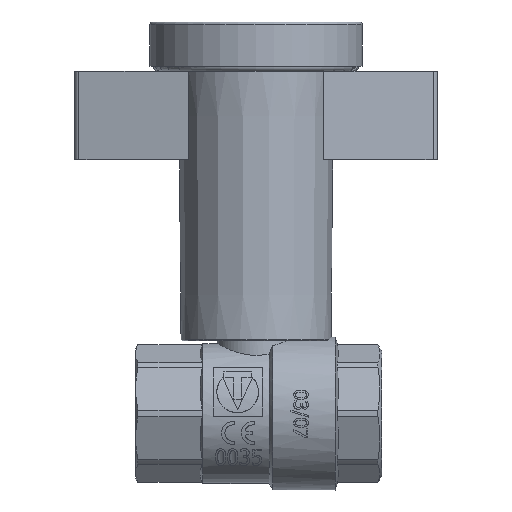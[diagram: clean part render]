
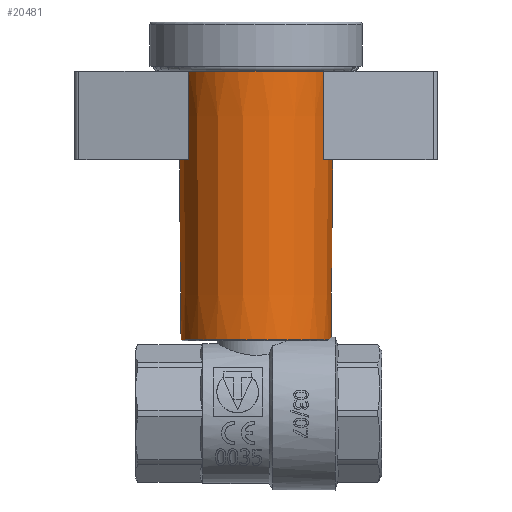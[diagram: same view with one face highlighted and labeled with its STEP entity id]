
A CAD part, top view. The second image highlights one B-rep face of the part: STEP entity #20481.
In plain terms, the highlighted conical face has half-angle 0.511 degrees and reference radius 14.7 mm.
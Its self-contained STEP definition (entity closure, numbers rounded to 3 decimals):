
#521=B_SPLINE_CURVE_WITH_KNOTS('',3,(#29678,#29679,#29680,#29681,#29682,
#29683),.UNSPECIFIED.,.F.,.F.,(4,2,4),(1.824,1.971,
2.206),.UNSPECIFIED.);
#522=B_SPLINE_CURVE_WITH_KNOTS('',3,(#29688,#29689,#29690,#29691,#29692,
#29693),.UNSPECIFIED.,.F.,.F.,(4,2,4),(2.206,2.442,
2.589),.UNSPECIFIED.);
#1168=CONICAL_SURFACE('',#21774,14.7,0.009);
#1278=LINE('',#29676,#3021);
#3021=VECTOR('',#23433,14.7);
#5724=FACE_OUTER_BOUND('',#6866,.T.);
#6866=EDGE_LOOP('',(#13936,#13937,#13938,#13939,#13940,#13941,#13942,#13943,
#13944,#13945,#13946));
#8156=CIRCLE('',#21775,14.931);
#8157=CIRCLE('',#21776,14.931);
#8158=CIRCLE('',#21777,14.931);
#8159=CIRCLE('',#21778,14.469);
#8160=CIRCLE('',#21779,14.469);
#8161=CIRCLE('',#21780,14.931);
#8162=CIRCLE('',#21781,14.931);
#8654=VERTEX_POINT('',#29668);
#8655=VERTEX_POINT('',#29669);
#8656=VERTEX_POINT('',#29671);
#8657=VERTEX_POINT('',#29673);
#8658=VERTEX_POINT('',#29675);
#8659=VERTEX_POINT('',#29677);
#8660=VERTEX_POINT('',#29684);
#8661=VERTEX_POINT('',#29686);
#8662=VERTEX_POINT('',#29694);
#10725=EDGE_CURVE('',#8654,#8655,#8156,.T.);
#10726=EDGE_CURVE('',#8656,#8654,#8157,.T.);
#10727=EDGE_CURVE('',#8657,#8656,#8158,.T.);
#10728=EDGE_CURVE('',#8657,#8658,#1278,.T.);
#10729=EDGE_CURVE('',#8659,#8658,#521,.T.);
#10730=EDGE_CURVE('',#8659,#8660,#8159,.T.);
#10731=EDGE_CURVE('',#8660,#8661,#8160,.T.);
#10732=EDGE_CURVE('',#8658,#8661,#522,.T.);
#10733=EDGE_CURVE('',#8662,#8657,#8161,.T.);
#10734=EDGE_CURVE('',#8655,#8662,#8162,.T.);
#13936=ORIENTED_EDGE('',*,*,#10725,.F.);
#13937=ORIENTED_EDGE('',*,*,#10726,.F.);
#13938=ORIENTED_EDGE('',*,*,#10727,.F.);
#13939=ORIENTED_EDGE('',*,*,#10728,.T.);
#13940=ORIENTED_EDGE('',*,*,#10729,.F.);
#13941=ORIENTED_EDGE('',*,*,#10730,.T.);
#13942=ORIENTED_EDGE('',*,*,#10731,.T.);
#13943=ORIENTED_EDGE('',*,*,#10732,.F.);
#13944=ORIENTED_EDGE('',*,*,#10728,.F.);
#13945=ORIENTED_EDGE('',*,*,#10733,.F.);
#13946=ORIENTED_EDGE('',*,*,#10734,.F.);
#20481=ADVANCED_FACE('',(#5724),#1168,.T.);
#21774=AXIS2_PLACEMENT_3D('',#29667,#23425,#23426);
#21775=AXIS2_PLACEMENT_3D('',#29670,#23427,#23428);
#21776=AXIS2_PLACEMENT_3D('',#29672,#23429,#23430);
#21777=AXIS2_PLACEMENT_3D('',#29674,#23431,#23432);
#21778=AXIS2_PLACEMENT_3D('',#29685,#23434,#23435);
#21779=AXIS2_PLACEMENT_3D('',#29687,#23436,#23437);
#21780=AXIS2_PLACEMENT_3D('',#29695,#23438,#23439);
#21781=AXIS2_PLACEMENT_3D('',#29696,#23440,#23441);
#23425=DIRECTION('center_axis',(0.,1.,0.));
#23426=DIRECTION('ref_axis',(-1.,0.,0.));
#23427=DIRECTION('center_axis',(0.,1.,0.));
#23428=DIRECTION('ref_axis',(1.,0.,0.));
#23429=DIRECTION('center_axis',(0.,1.,0.));
#23430=DIRECTION('ref_axis',(1.,0.,0.));
#23431=DIRECTION('center_axis',(0.,1.,0.));
#23432=DIRECTION('ref_axis',(1.,0.,0.));
#23433=DIRECTION('',(-0.009,-1.,0.));
#23434=DIRECTION('center_axis',(0.,1.,0.));
#23435=DIRECTION('ref_axis',(1.,0.,0.));
#23436=DIRECTION('center_axis',(0.,1.,0.));
#23437=DIRECTION('ref_axis',(1.,0.,0.));
#23438=DIRECTION('center_axis',(0.,1.,0.));
#23439=DIRECTION('ref_axis',(1.,0.,0.));
#23440=DIRECTION('center_axis',(0.,1.,0.));
#23441=DIRECTION('ref_axis',(1.,0.,0.));
#29667=CARTESIAN_POINT('Origin',(0.,40.13,
0.));
#29668=CARTESIAN_POINT('',(-12.989,66.023,-7.362));
#29669=CARTESIAN_POINT('',(-12.971,66.023,7.394));
#29670=CARTESIAN_POINT('Origin',(0.,66.023,
0.));
#29671=CARTESIAN_POINT('',(12.986,66.023,-7.369));
#29672=CARTESIAN_POINT('Origin',(0.,66.023,
0.));
#29673=CARTESIAN_POINT('',(14.931,66.023,0.));
#29674=CARTESIAN_POINT('Origin',(0.,66.023,
0.));
#29675=CARTESIAN_POINT('',(14.473,14.75,0.));
#29676=CARTESIAN_POINT('',(14.7,40.13,0.));
#29677=CARTESIAN_POINT('',(13.946,14.238,-3.852));
#29678=CARTESIAN_POINT('Ctrl Pts',(13.947,14.238,-3.852));
#29679=CARTESIAN_POINT('Ctrl Pts',(14.08,14.368,-3.371));
#29680=CARTESIAN_POINT('Ctrl Pts',(14.19,14.475,-2.881));
#29681=CARTESIAN_POINT('Ctrl Pts',(14.407,14.686,-1.591));
#29682=CARTESIAN_POINT('Ctrl Pts',(14.473,14.75,-0.786));
#29683=CARTESIAN_POINT('Ctrl Pts',(14.473,14.75,0.));
#29684=CARTESIAN_POINT('',(-14.469,14.238,0.));
#29685=CARTESIAN_POINT('Origin',(0.,14.238,
0.));
#29686=CARTESIAN_POINT('',(13.946,14.238,3.852));
#29687=CARTESIAN_POINT('Origin',(0.,14.238,
0.));
#29688=CARTESIAN_POINT('Ctrl Pts',(14.473,14.75,0.));
#29689=CARTESIAN_POINT('Ctrl Pts',(14.473,14.75,0.786));
#29690=CARTESIAN_POINT('Ctrl Pts',(14.407,14.686,1.591));
#29691=CARTESIAN_POINT('Ctrl Pts',(14.19,14.475,2.881));
#29692=CARTESIAN_POINT('Ctrl Pts',(14.08,14.368,3.371));
#29693=CARTESIAN_POINT('Ctrl Pts',(13.947,14.238,3.852));
#29694=CARTESIAN_POINT('',(12.968,66.023,7.4));
#29695=CARTESIAN_POINT('Origin',(0.,66.023,
0.));
#29696=CARTESIAN_POINT('Origin',(0.,66.023,
0.));
